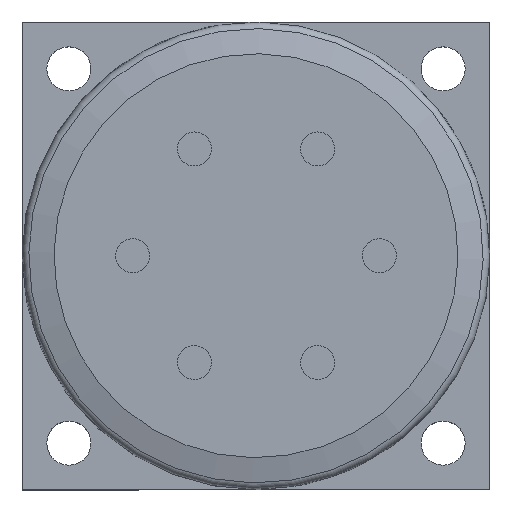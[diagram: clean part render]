
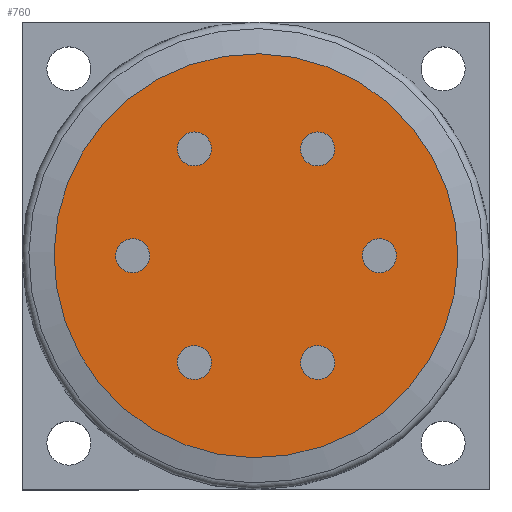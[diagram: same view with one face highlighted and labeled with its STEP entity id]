
A CAD part, top view. The second image highlights one B-rep face of the part: STEP entity #760.
In plain terms, the highlighted planar face has unit normal (0, 0, 1).
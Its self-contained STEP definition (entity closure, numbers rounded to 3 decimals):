
#410=CARTESIAN_POINT('',(-107.044,-139.53,181.309));
#411=VERTEX_POINT('',#410);
#412=CARTESIAN_POINT('',(-111.166,-132.674,181.309));
#413=DIRECTION('',(0.,0.,-1.0));
#414=DIRECTION('',(-0.515,0.857,0.));
#415=AXIS2_PLACEMENT_3D('',#412,#413,#414);
#416=CIRCLE('',#415,8.);
#417=EDGE_CURVE('',#411,#411,#416,.T.);
#447=CARTESIAN_POINT('',(-173.043,-139.672,181.309));
#448=VERTEX_POINT('',#447);
#449=CARTESIAN_POINT('',(-169.166,-132.674,181.309));
#450=DIRECTION('',(0.,0.,-1.0));
#451=DIRECTION('',(0.485,0.875,0.));
#452=AXIS2_PLACEMENT_3D('',#449,#450,#451);
#453=CIRCLE('',#452,8.);
#454=EDGE_CURVE('',#448,#448,#453,.T.);
#484=CARTESIAN_POINT('',(-206.165,-82.586,181.309));
#485=VERTEX_POINT('',#484);
#486=CARTESIAN_POINT('',(-198.166,-82.444,181.309));
#487=DIRECTION('',(0.,0.,-1.0));
#488=DIRECTION('',(1.,0.018,0.));
#489=AXIS2_PLACEMENT_3D('',#486,#487,#488);
#490=CIRCLE('',#489,8.);
#491=EDGE_CURVE('',#485,#485,#490,.T.);
#521=CARTESIAN_POINT('',(-173.289,-25.359,181.309));
#522=VERTEX_POINT('',#521);
#523=CARTESIAN_POINT('',(-169.166,-32.215,181.309));
#524=DIRECTION('',(0.,0.,-1.0));
#525=DIRECTION('',(0.515,-0.857,0.));
#526=AXIS2_PLACEMENT_3D('',#523,#524,#525);
#527=CIRCLE('',#526,8.);
#528=EDGE_CURVE('',#522,#522,#527,.T.);
#558=CARTESIAN_POINT('',(-107.29,-25.217,181.309));
#559=VERTEX_POINT('',#558);
#560=CARTESIAN_POINT('',(-111.166,-32.215,181.309));
#561=DIRECTION('',(0.,0.,-1.0));
#562=DIRECTION('',(-0.485,-0.875,0.));
#563=AXIS2_PLACEMENT_3D('',#560,#561,#562);
#564=CIRCLE('',#563,8.);
#565=EDGE_CURVE('',#559,#559,#564,.T.);
#595=CARTESIAN_POINT('',(-74.168,-82.302,181.309));
#596=VERTEX_POINT('',#595);
#597=CARTESIAN_POINT('',(-82.166,-82.444,181.309));
#598=DIRECTION('',(0.,0.,-1.0));
#599=DIRECTION('',(-1.,-0.018,0.));
#600=AXIS2_PLACEMENT_3D('',#597,#598,#599);
#601=CIRCLE('',#600,8.);
#602=EDGE_CURVE('',#596,#596,#601,.T.);
#719=CARTESIAN_POINT('',(-51.42,-116.343,181.309));
#720=VERTEX_POINT('',#719);
#721=CARTESIAN_POINT('',(-140.166,-82.444,181.309));
#722=DIRECTION('',(0.,0.,1.0));
#723=DIRECTION('',(0.934,-0.357,0.));
#724=AXIS2_PLACEMENT_3D('',#721,#722,#723);
#725=CIRCLE('',#724,95.);
#726=EDGE_CURVE('',#720,#720,#725,.T.);
#734=CARTESIAN_POINT('',(-57.959,-113.846,181.309));
#735=DIRECTION('',(0.0,0.0,1.0));
#736=DIRECTION('',(-0.357,-0.934,0.0));
#737=AXIS2_PLACEMENT_3D('',#734,#735,#736);
#738=PLANE('',#737);
#739=ORIENTED_EDGE('',*,*,#726,.T.);
#740=EDGE_LOOP('',(#739));
#741=FACE_OUTER_BOUND('',#740,.T.);
#742=ORIENTED_EDGE('',*,*,#417,.T.);
#743=EDGE_LOOP('',(#742));
#744=FACE_BOUND('',#743,.T.);
#745=ORIENTED_EDGE('',*,*,#454,.T.);
#746=EDGE_LOOP('',(#745));
#747=FACE_BOUND('',#746,.T.);
#748=ORIENTED_EDGE('',*,*,#491,.T.);
#749=EDGE_LOOP('',(#748));
#750=FACE_BOUND('',#749,.T.);
#751=ORIENTED_EDGE('',*,*,#528,.T.);
#752=EDGE_LOOP('',(#751));
#753=FACE_BOUND('',#752,.T.);
#754=ORIENTED_EDGE('',*,*,#565,.T.);
#755=EDGE_LOOP('',(#754));
#756=FACE_BOUND('',#755,.T.);
#757=ORIENTED_EDGE('',*,*,#602,.T.);
#758=EDGE_LOOP('',(#757));
#759=FACE_BOUND('',#758,.T.);
#760=ADVANCED_FACE('',(#741,#744,#747,#750,#753,#756,#759),#738,.T.);
